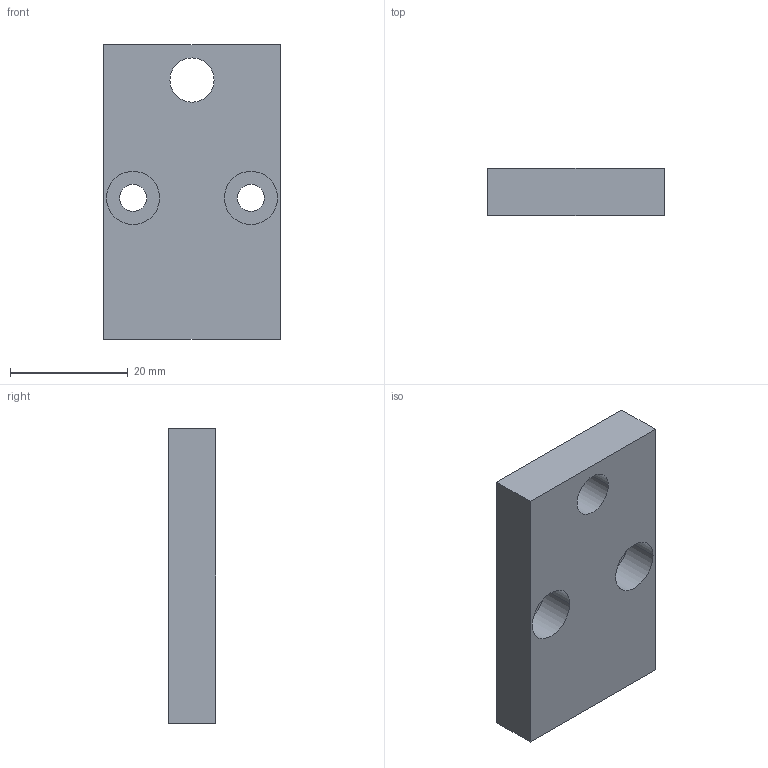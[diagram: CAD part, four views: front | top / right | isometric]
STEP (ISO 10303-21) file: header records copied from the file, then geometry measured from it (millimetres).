
FILE_DESCRIPTION((''),'2;1');
FILE_NAME('ADAPTERPLATTE','2016-11-10T',('Tim'),(''),'CREO PARAMETRIC BY PTC INC, 2015380','CREO PARAMETRIC BY PTC INC, 2015380','');
FILE_SCHEMA(('CONFIG_CONTROL_DESIGN'));
Length unit declared in the file: millimetre
Products named in the file (1): ADAPTERPLATTE
Bounding box: 30 x 8 x 50 mm (x, y, z)
Volume: 10816.7 mm3; surface area: 4710.8 mm2
Topology: 1 solids, 1 shells, 18 faces, 42 edges, 28 vertices
Faces by surface type: cylinder 10, plane 8
Entity records: 576 total; most frequent: DIRECTION 98, CARTESIAN_POINT 88, ORIENTED_EDGE 84, EDGE_CURVE 42, AXIS2_PLACEMENT_3D 38, VERTEX_POINT 28, EDGE_LOOP 26, VECTOR 22
